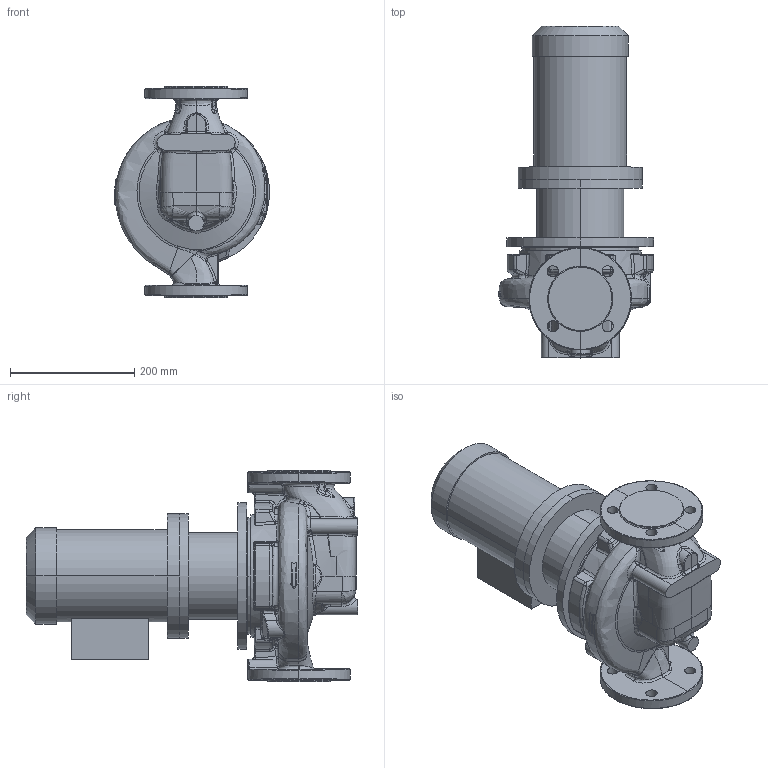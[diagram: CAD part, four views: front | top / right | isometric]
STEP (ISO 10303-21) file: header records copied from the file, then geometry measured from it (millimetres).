
FILE_DESCRIPTION (( 'STEP AP203' ), '1' );
FILE_NAME ('KRL 50-160-4-0,75.STEP', '2026-04-03T09:32:31', ( '' ), ( '' ), 'SwSTEP 2.0', 'SolidWorks 2016', '' );
FILE_SCHEMA (( 'CONFIG_CONTROL_DESIGN' ));
Length unit declared in the file: millimetre
Products named in the file (1): KRL 50-160-4-0,75
Bounding box: 249.65 x 534.3 x 340 mm (x, y, z)
Volume: 14078968.2 mm3; surface area: 796871.6 mm2
Topology: 4 solids, 4 shells, 761 faces, 1822 edges, 1057 vertices
Faces by surface type: bspline 413, cylinder 135, plane 96, sphere 57, cone 34, torus 26
Entity records: 79985 total; most frequent: CARTESIAN_POINT 65813, ORIENTED_EDGE 3582, DIRECTION 2100, EDGE_CURVE 1791, VERTEX_POINT 1057, AXIS2_PLACEMENT_3D 933, B_SPLINE_CURVE_WITH_KNOTS 841, EDGE_LOOP 796
